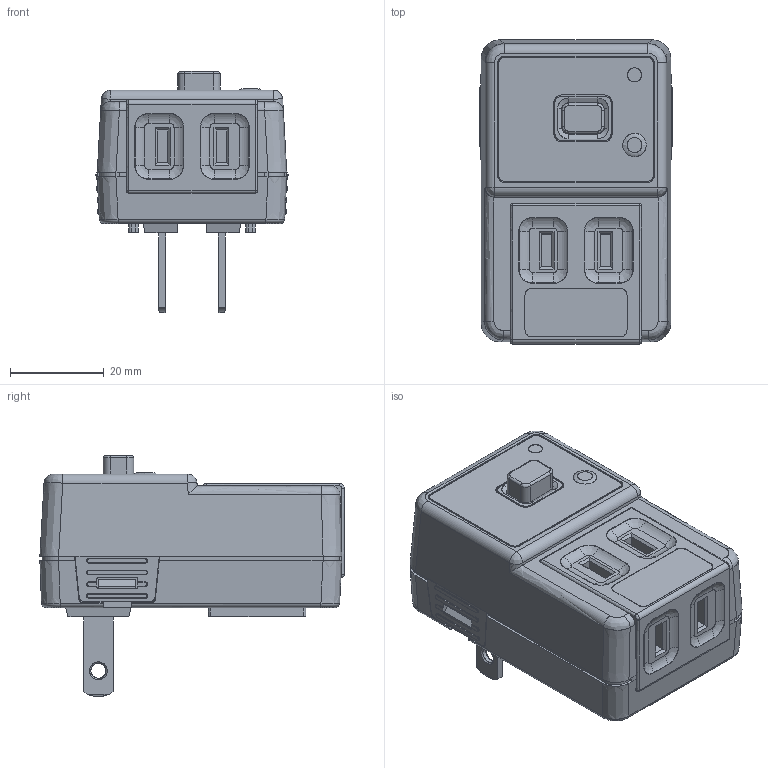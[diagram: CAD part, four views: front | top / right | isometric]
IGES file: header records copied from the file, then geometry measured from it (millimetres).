
Global section: file name: C:\config\11_kd-l2115pd_141029.igs; native system: NX V8.0; preprocessor: SIEMENS PLM Software NX 8.0; date: 20141029.103834; units: millimetre
Bounding box: 41.04 x 65 x 51.5 mm (x, y, z)
Surface area: 12275.9 mm2 (no closed solid volume)
Topology: 0 solids, 0 shells, 483 faces, 3456 edges, 3439 vertices
Faces by surface type: bspline 483
